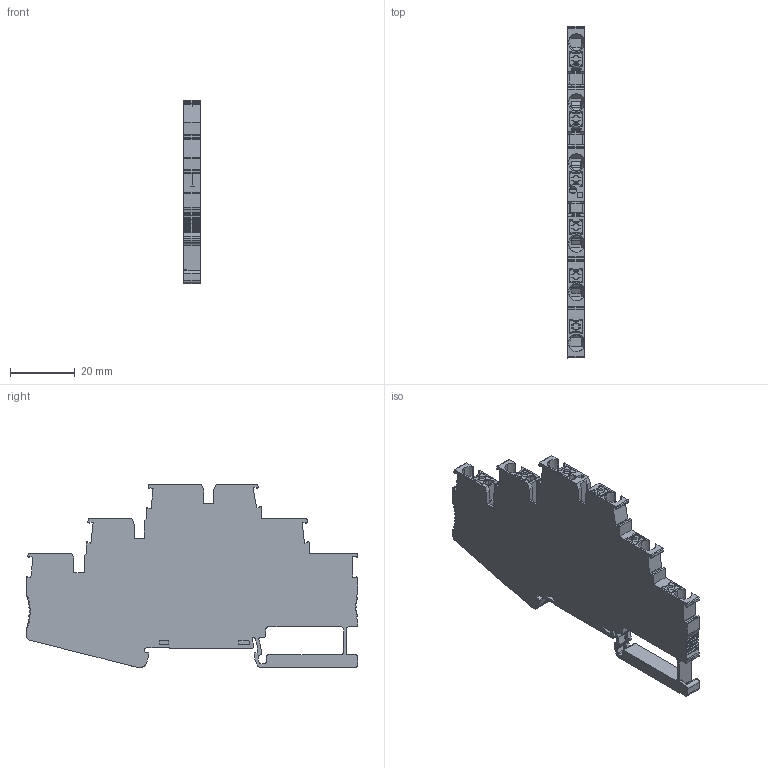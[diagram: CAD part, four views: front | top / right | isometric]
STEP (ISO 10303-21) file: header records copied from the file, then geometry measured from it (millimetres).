
FILE_DESCRIPTION(/* description */ (''),/* implementation_level */ '2;1');
FILE_NAME(/* name */ 'UPT-2.5-3 ASSY.stp',/* time_stamp */ '2024-04-26T14:38:35+08:00',/* author */ (''),/* organization */ (''),/* preprocessor_version */ 'ST-DEVELOPER v16.7',/* originating_system */ 'SIEMENS PLM Software NX 12.0',/* authorisation */ '');
FILE_SCHEMA (('AUTOMOTIVE_DESIGN { 1 0 10303 214 3 1 1 1 }'));
Length unit declared in the file: millimetre
Products named in the file (1): Admi0EB4BAB8ixos
Bounding box: 5.2 x 102.2 x 56.45 mm (x, y, z)
Volume: 18242.8 mm3; surface area: 13926.4 mm2
Topology: 1 solids, 3 shells, 1309 faces, 3707 edges, 2408 vertices
Faces by surface type: plane 752, cylinder 443, bspline 42, torus 36, cone 36
Entity records: 46011 total; most frequent: CARTESIAN_POINT 11979, ORIENTED_EDGE 7390, DIRECTION 6835, EDGE_CURVE 3695, LINE 2495, VECTOR 2495, VERTEX_POINT 2408, AXIS2_PLACEMENT_3D 2170
